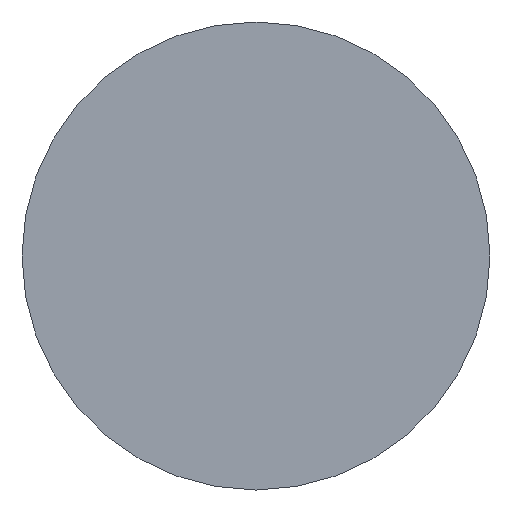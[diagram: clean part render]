
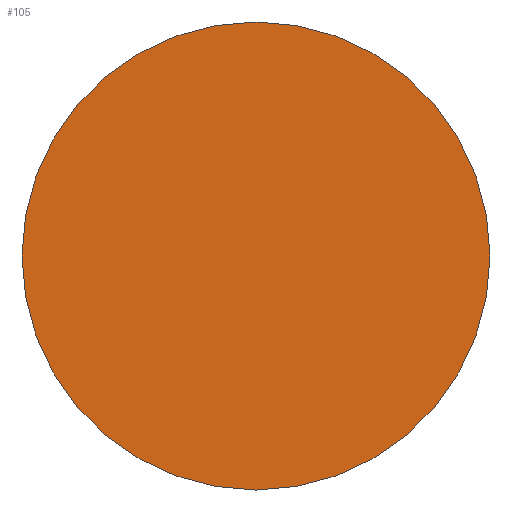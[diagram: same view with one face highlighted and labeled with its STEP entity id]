
A CAD part, left-side view. The second image highlights one B-rep face of the part: STEP entity #105.
In plain terms, the highlighted planar face has unit normal (-1, 0, 0).
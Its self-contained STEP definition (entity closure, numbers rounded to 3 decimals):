
#22 = VERTEX_POINT('',#23);
#23 = CARTESIAN_POINT('',(-38.5,46.825,259.));
#32 = CYLINDRICAL_SURFACE('',#33,3.175);
#33 = AXIS2_PLACEMENT_3D('',#34,#35,#36);
#34 = CARTESIAN_POINT('',(-38.5,50.,259.));
#35 = DIRECTION('',(-1.,-0.,-0.));
#36 = DIRECTION('',(0.,-1.,0.));
#79 = EDGE_CURVE('',#22,#22,#80,.T.);
#80 = SURFACE_CURVE('',#81,(#86,#93),.PCURVE_S1.);
#81 = CIRCLE('',#82,3.175);
#82 = AXIS2_PLACEMENT_3D('',#83,#84,#85);
#83 = CARTESIAN_POINT('',(-38.5,50.,259.));
#84 = DIRECTION('',(1.,0.,0.));
#85 = DIRECTION('',(0.,-1.,0.));
#86 = PCURVE('',#32,#87);
#87 = DEFINITIONAL_REPRESENTATION('',(#88),#92);
#88 = LINE('',#89,#90);
#89 = CARTESIAN_POINT('',(-0.,0.));
#90 = VECTOR('',#91,1.);
#91 = DIRECTION('',(-1.,0.));
#92 = ( GEOMETRIC_REPRESENTATION_CONTEXT(2) 
PARAMETRIC_REPRESENTATION_CONTEXT() REPRESENTATION_CONTEXT('2D SPACE',''
  ) );
#93 = PCURVE('',#94,#99);
#94 = PLANE('',#95);
#95 = AXIS2_PLACEMENT_3D('',#96,#97,#98);
#96 = CARTESIAN_POINT('',(-38.5,50.,259.));
#97 = DIRECTION('',(1.,0.,0.));
#98 = DIRECTION('',(-0.,0.,1.));
#99 = DEFINITIONAL_REPRESENTATION('',(#100),#104);
#100 = CIRCLE('',#101,3.175);
#101 = AXIS2_PLACEMENT_2D('',#102,#103);
#102 = CARTESIAN_POINT('',(0.,0.));
#103 = DIRECTION('',(0.,1.));
#104 = ( GEOMETRIC_REPRESENTATION_CONTEXT(2) 
PARAMETRIC_REPRESENTATION_CONTEXT() REPRESENTATION_CONTEXT('2D SPACE',''
  ) );
#105 = ADVANCED_FACE('',(#106),#94,.F.);
#106 = FACE_BOUND('',#107,.F.);
#107 = EDGE_LOOP('',(#108));
#108 = ORIENTED_EDGE('',*,*,#79,.T.);
